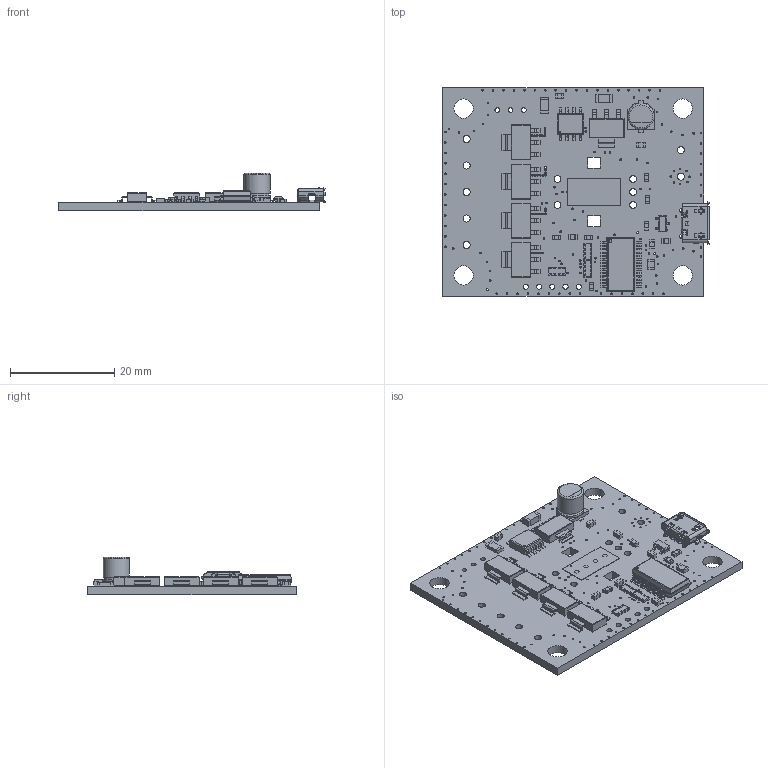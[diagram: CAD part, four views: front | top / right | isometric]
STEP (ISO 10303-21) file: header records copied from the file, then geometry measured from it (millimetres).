
FILE_DESCRIPTION(/* description */ (''),/* implementation_level */ '2;1');
FILE_NAME(/* name */ '16bit-manual-v2c-unpop.step',/* time_stamp */ '2024-02-01T12:28:59-06:00',/* author */ (''),/* organization */ (''),/* preprocessor_version */ 'ST-DEVELOPER v20',/* originating_system */ 'Autodesk Translation Framework v12.20.1.177',/* authorisation */ '');
FILE_SCHEMA (('AUTOMOTIVE_DESIGN { 1 0 10303 214 3 1 1 }'));
Products named in the file (18): 16Bit-Manual; Board; Packages; SOT23; 153CLV-0505; R1206; MOLEX_105017-1001; SOIC-8; SSOP28; C0805; C1206; FE05-1; SJ-NOPASTE; SOT223; C0603; R0603; CAT16; MOLEXKK4
Assembly tree (33 placements, depth 3):
  16Bit-Manual
    Board
    Packages
      SOT23
      153CLV-0505
      R1206
      MOLEX_105017-1001
      SOIC-8
      SSOP28
      C0805
      C1206
      FE05-1
      SJ-NOPASTE  x2
      SOT223  x5
      C0603  x8
      R0603  x3
      CAT16  x3
      MOLEXKK4
Bounding box: 51.09 x 40 x 7.18 mm (x, y, z)
Volume: 3738.5 mm3; surface area: 6274.1 mm2
Topology: 31 solids, 31 shells, 2615 faces, 7135 edges, 4604 vertices
Faces by surface type: plane 1688, cylinder 762, bspline 87, sphere 76, torus 2
Full cylindrical faces by diameter (mm): 0.3 x196, 0.527 x1, 0.85 x2, 0.9 x7, 1 x5, 1.3 x5, 1.35 x7, 3.7 x4, 5 x2
Entity records: 59954 total; most frequent: CARTESIAN_POINT 10479, ORIENTED_EDGE 10042, DIRECTION 9786, EDGE_CURVE 5021, LINE 3764, VECTOR 3764, VERTEX_POINT 3248, AXIS2_PLACEMENT_3D 3011
